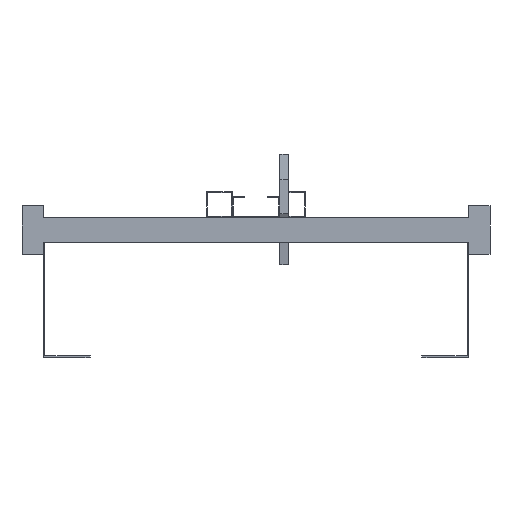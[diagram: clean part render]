
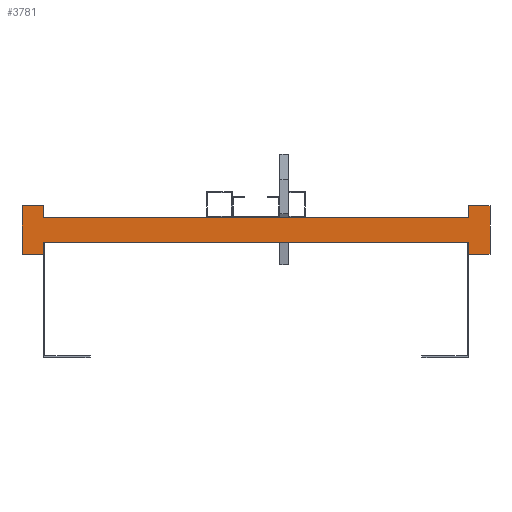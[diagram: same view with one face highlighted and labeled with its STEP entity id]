
A CAD part, front view. The second image highlights one B-rep face of the part: STEP entity #3781.
In plain terms, the highlighted planar face has unit normal (0, -1, 0).
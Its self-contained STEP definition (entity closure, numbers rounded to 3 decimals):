
#1365=DIRECTION('',(0.,0.,1.));
#1366=VECTOR('',#1365,13.5);
#1367=CARTESIAN_POINT('',(250.,0.,-28.5));
#1368=LINE('',#1367,#1366);
#1369=DIRECTION('',(0.,0.,-1.));
#1370=VECTOR('',#1369,13.5);
#1371=CARTESIAN_POINT('',(-250.,0.,-15.));
#1372=LINE('',#1371,#1370);
#1373=DIRECTION('',(-1.,0.,0.));
#1374=VECTOR('',#1373,25.);
#1375=CARTESIAN_POINT('',(-250.,0.,-28.5));
#1376=LINE('',#1375,#1374);
#1377=DIRECTION('',(0.,0.,1.));
#1378=VECTOR('',#1377,57.);
#1379=CARTESIAN_POINT('',(-275.,0.,-28.5));
#1380=LINE('',#1379,#1378);
#1381=DIRECTION('',(1.,0.,0.));
#1382=VECTOR('',#1381,25.);
#1383=CARTESIAN_POINT('',(-275.,0.,28.5));
#1384=LINE('',#1383,#1382);
#1385=DIRECTION('',(0.,0.,-1.));
#1386=VECTOR('',#1385,13.5);
#1387=CARTESIAN_POINT('',(-250.,0.,28.5));
#1388=LINE('',#1387,#1386);
#1389=DIRECTION('',(0.,0.,1.));
#1390=VECTOR('',#1389,13.5);
#1391=CARTESIAN_POINT('',(250.,0.,15.));
#1392=LINE('',#1391,#1390);
#1393=DIRECTION('',(1.,0.,0.));
#1394=VECTOR('',#1393,25.);
#1395=CARTESIAN_POINT('',(250.,0.,28.5));
#1396=LINE('',#1395,#1394);
#1397=DIRECTION('',(0.,0.,-1.));
#1398=VECTOR('',#1397,57.);
#1399=CARTESIAN_POINT('',(275.,0.,28.5));
#1400=LINE('',#1399,#1398);
#1401=DIRECTION('',(-1.,0.,0.));
#1402=VECTOR('',#1401,25.);
#1403=CARTESIAN_POINT('',(275.,0.,-28.5));
#1404=LINE('',#1403,#1402);
#1405=DIRECTION('',(1.,0.,0.));
#1406=VECTOR('',#1405,500.);
#1407=CARTESIAN_POINT('',(-250.,0.,-15.));
#1408=LINE('',#1407,#1406);
#1417=DIRECTION('',(1.,0.,0.));
#1418=VECTOR('',#1417,500.);
#1419=CARTESIAN_POINT('',(-250.,0.,15.));
#1420=LINE('',#1419,#1418);
#1489=CARTESIAN_POINT('',(-275.,0.,28.5));
#1490=CARTESIAN_POINT('',(-250.,0.,28.5));
#1491=VERTEX_POINT('',#1489);
#1492=VERTEX_POINT('',#1490);
#1493=CARTESIAN_POINT('',(-250.,0.,-28.5));
#1494=CARTESIAN_POINT('',(-275.,0.,-28.5));
#1495=VERTEX_POINT('',#1493);
#1496=VERTEX_POINT('',#1494);
#1497=CARTESIAN_POINT('',(275.,0.,28.5));
#1498=CARTESIAN_POINT('',(275.,0.,-28.5));
#1499=VERTEX_POINT('',#1497);
#1500=VERTEX_POINT('',#1498);
#1501=CARTESIAN_POINT('',(250.,0.,-28.5));
#1502=VERTEX_POINT('',#1501);
#1503=CARTESIAN_POINT('',(250.,0.,28.5));
#1504=VERTEX_POINT('',#1503);
#1521=CARTESIAN_POINT('',(-250.,0.,-15.));
#1523=VERTEX_POINT('',#1521);
#1525=CARTESIAN_POINT('',(-250.,0.,15.));
#1527=VERTEX_POINT('',#1525);
#1529=CARTESIAN_POINT('',(250.,0.,-15.));
#1531=VERTEX_POINT('',#1529);
#1533=CARTESIAN_POINT('',(250.,0.,15.));
#1535=VERTEX_POINT('',#1533);
#3756=CARTESIAN_POINT('',(0.,0.,0.));
#3757=DIRECTION('',(0.,1.,0.));
#3758=DIRECTION('',(1.,0.,0.));
#3759=AXIS2_PLACEMENT_3D('',#3756,#3757,#3758);
#3760=PLANE('',#3759);
#3761=ORIENTED_EDGE('',*,*,#2261,.T.);
#3763=ORIENTED_EDGE('',*,*,#3762,.F.);
#3764=ORIENTED_EDGE('',*,*,#2005,.T.);
#3765=ORIENTED_EDGE('',*,*,#3096,.T.);
#3767=ORIENTED_EDGE('',*,*,#3766,.T.);
#3769=ORIENTED_EDGE('',*,*,#3768,.T.);
#3770=ORIENTED_EDGE('',*,*,#2013,.T.);
#3772=ORIENTED_EDGE('',*,*,#3771,.T.);
#3773=ORIENTED_EDGE('',*,*,#2253,.T.);
#3775=ORIENTED_EDGE('',*,*,#3774,.T.);
#3777=ORIENTED_EDGE('',*,*,#3776,.T.);
#3778=ORIENTED_EDGE('',*,*,#3407,.T.);
#3779=EDGE_LOOP('',(#3761,#3763,#3764,#3765,#3767,#3769,#3770,#3772,#3773,#3775,
#3777,#3778));
#3780=FACE_OUTER_BOUND('',#3779,.F.);
#2005=EDGE_CURVE('',#1523,#1495,#1372,.T.);
#2013=EDGE_CURVE('',#1492,#1527,#1388,.T.);
#2253=EDGE_CURVE('',#1535,#1504,#1392,.T.);
#2261=EDGE_CURVE('',#1502,#1531,#1368,.T.);
#3096=EDGE_CURVE('',#1495,#1496,#1376,.T.);
#3407=EDGE_CURVE('',#1500,#1502,#1404,.T.);
#3762=EDGE_CURVE('',#1523,#1531,#1408,.T.);
#3766=EDGE_CURVE('',#1496,#1491,#1380,.T.);
#3768=EDGE_CURVE('',#1491,#1492,#1384,.T.);
#3771=EDGE_CURVE('',#1527,#1535,#1420,.T.);
#3774=EDGE_CURVE('',#1504,#1499,#1396,.T.);
#3776=EDGE_CURVE('',#1499,#1500,#1400,.T.);
#3781=ADVANCED_FACE('',(#3780),#3760,.F.);
